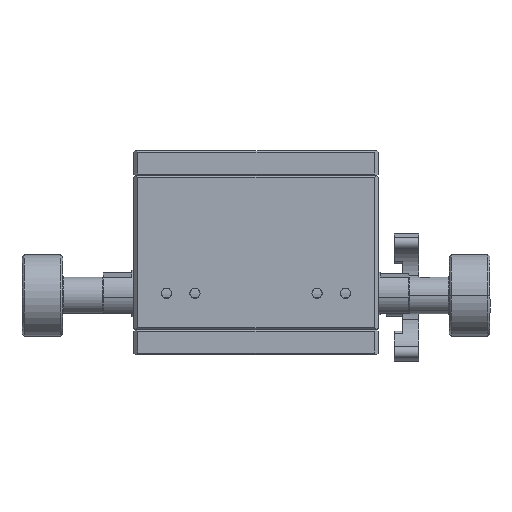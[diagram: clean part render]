
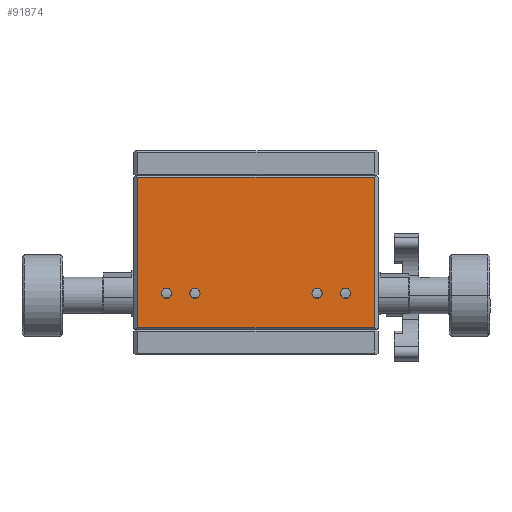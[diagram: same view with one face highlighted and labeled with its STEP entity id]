
A CAD part, top view. The second image highlights one B-rep face of the part: STEP entity #91874.
In plain terms, the highlighted planar face has unit normal (0, 0, 1).
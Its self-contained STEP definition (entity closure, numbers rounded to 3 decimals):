
#937 = EDGE_CURVE ( 'NONE', #77429, #63749, #36532, .T. ) ;
#1681 = VERTEX_POINT ( 'NONE', #30417 ) ;
#2882 = CARTESIAN_POINT ( 'NONE',  ( -13.565, 8.453, 17. ) ) ;
#4874 = DIRECTION ( 'NONE',  ( 0., 0., 1. ) ) ;
#4970 = CIRCLE ( 'NONE', #111830, 1.25 ) ;
#6033 = DIRECTION ( 'NONE',  ( 1., 0., 0. ) ) ;
#8598 = FACE_BOUND ( 'NONE', #33725, .T. ) ;
#8670 = CARTESIAN_POINT ( 'NONE',  ( -71.565, 45.453, 17. ) ) ;
#9053 = ORIENTED_EDGE ( 'NONE', *, *, #937, .F. ) ;
#9964 = PLANE ( 'NONE',  #53649 ) ;
#12086 = CARTESIAN_POINT ( 'NONE',  ( -28.815, 16.953, 17. ) ) ;
#12116 = ORIENTED_EDGE ( 'NONE', *, *, #125115, .T. ) ;
#13654 = VERTEX_POINT ( 'NONE', #19298 ) ;
#14651 = CARTESIAN_POINT ( 'NONE',  ( -27.565, 16.953, 17. ) ) ;
#15583 = LINE ( 'NONE', #60162, #40826 ) ;
#15729 = EDGE_LOOP ( 'NONE', ( #97494, #32599 ) ) ;
#16059 = AXIS2_PLACEMENT_3D ( 'NONE', #16727, #84126, #116195 ) ;
#16727 = CARTESIAN_POINT ( 'NONE',  ( -64.565, 16.953, 17. ) ) ;
#16805 = EDGE_CURVE ( 'NONE', #39588, #55641, #106297, .T. ) ;
#16858 = DIRECTION ( 'NONE',  ( 0., -1., 0. ) ) ;
#18121 = ORIENTED_EDGE ( 'NONE', *, *, #98922, .F. ) ;
#18636 = CIRCLE ( 'NONE', #127679, 1.25 ) ;
#18782 = EDGE_CURVE ( 'NONE', #55641, #39588, #115266, .T. ) ;
#19298 = CARTESIAN_POINT ( 'NONE',  ( -65.815, 16.953, 17. ) ) ;
#21102 = CARTESIAN_POINT ( 'NONE',  ( -63.315, 16.953, 17. ) ) ;
#22475 = DIRECTION ( 'NONE',  ( 1., 0., 0. ) ) ;
#25106 = DIRECTION ( 'NONE',  ( 1., 0., 0. ) ) ;
#25377 = AXIS2_PLACEMENT_3D ( 'NONE', #79226, #37414, #6033 ) ;
#26089 = DIRECTION ( 'NONE',  ( 0., 0., 1. ) ) ;
#26263 = AXIS2_PLACEMENT_3D ( 'NONE', #101483, #82617, #59637 ) ;
#30417 = CARTESIAN_POINT ( 'NONE',  ( -13.565, 45.453, 17. ) ) ;
#30544 = EDGE_CURVE ( 'NONE', #57428, #13654, #110029, .T. ) ;
#32578 = EDGE_CURVE ( 'NONE', #116711, #55198, #60059, .T. ) ;
#32599 = ORIENTED_EDGE ( 'NONE', *, *, #16805, .F. ) ;
#32640 = VECTOR ( 'NONE', #77225, 1000. ) ;
#32643 = CARTESIAN_POINT ( 'NONE',  ( -57.565, 16.953, 17. ) ) ;
#32928 = DIRECTION ( 'NONE',  ( 0., 0., 1. ) ) ;
#33725 = EDGE_LOOP ( 'NONE', ( #9053, #121659 ) ) ;
#36532 = CIRCLE ( 'NONE', #25377, 1.25 ) ;
#36937 = VERTEX_POINT ( 'NONE', #112865 ) ;
#37414 = DIRECTION ( 'NONE',  ( 0., 0., 1. ) ) ;
#39289 = CARTESIAN_POINT ( 'NONE',  ( -72.565, 45.953, 17. ) ) ;
#39588 = VERTEX_POINT ( 'NONE', #12086 ) ;
#40661 = EDGE_CURVE ( 'NONE', #55198, #101297, #46546, .T. ) ;
#40669 = DIRECTION ( 'NONE',  ( -1., 0., 0. ) ) ;
#40826 = VECTOR ( 'NONE', #133355, 1000. ) ;
#43114 = DIRECTION ( 'NONE',  ( 1., 0., 0. ) ) ;
#44602 = VECTOR ( 'NONE', #108701, 1000. ) ;
#44620 = CARTESIAN_POINT ( 'NONE',  ( -13.565, 45.953, 17. ) ) ;
#46198 = AXIS2_PLACEMENT_3D ( 'NONE', #14651, #4874, #25106 ) ;
#46546 = LINE ( 'NONE', #128867, #32640 ) ;
#51119 = FACE_BOUND ( 'NONE', #15729, .T. ) ;
#52276 = CARTESIAN_POINT ( 'NONE',  ( -71.565, 8.453, 17. ) ) ;
#53649 = AXIS2_PLACEMENT_3D ( 'NONE', #39289, #94319, #40669 ) ;
#55198 = VERTEX_POINT ( 'NONE', #52276 ) ;
#55641 = VERTEX_POINT ( 'NONE', #87074 ) ;
#57099 = EDGE_LOOP ( 'NONE', ( #12116, #120637, #67303, #96795 ) ) ;
#57428 = VERTEX_POINT ( 'NONE', #21102 ) ;
#59637 = DIRECTION ( 'NONE',  ( 1., 0., 0. ) ) ;
#60059 = LINE ( 'NONE', #103287, #114520 ) ;
#60162 = CARTESIAN_POINT ( 'NONE',  ( -72.565, 45.453, 17. ) ) ;
#62090 = ORIENTED_EDGE ( 'NONE', *, *, #71358, .F. ) ;
#63749 = VERTEX_POINT ( 'NONE', #94835 ) ;
#65340 = CARTESIAN_POINT ( 'NONE',  ( -58.815, 16.953, 17. ) ) ;
#67303 = ORIENTED_EDGE ( 'NONE', *, *, #32578, .T. ) ;
#71358 = EDGE_CURVE ( 'NONE', #13654, #57428, #100654, .T. ) ;
#71685 = EDGE_CURVE ( 'NONE', #63749, #77429, #18636, .T. ) ;
#75145 = DIRECTION ( 'NONE',  ( 0., 0., 1. ) ) ;
#75428 = CARTESIAN_POINT ( 'NONE',  ( -57.565, 16.953, 17. ) ) ;
#77225 = DIRECTION ( 'NONE',  ( 1., 0., 0. ) ) ;
#77429 = VERTEX_POINT ( 'NONE', #128881 ) ;
#79226 = CARTESIAN_POINT ( 'NONE',  ( -20.565, 16.953, 17. ) ) ;
#82617 = DIRECTION ( 'NONE',  ( 0., 0., 1. ) ) ;
#84126 = DIRECTION ( 'NONE',  ( 0., 0., 1. ) ) ;
#87071 = DIRECTION ( 'NONE',  ( 0., 0., 1. ) ) ;
#87074 = CARTESIAN_POINT ( 'NONE',  ( -26.315, 16.953, 17. ) ) ;
#87487 = DIRECTION ( 'NONE',  ( 1., 0., 0. ) ) ;
#91874 = ADVANCED_FACE ( 'NONE', ( #8598, #51119, #136139, #92248, #134768 ), #9964, .F. ) ;
#92248 = FACE_BOUND ( 'NONE', #118249, .T. ) ;
#93565 = VERTEX_POINT ( 'NONE', #65340 ) ;
#94319 = DIRECTION ( 'NONE',  ( 0., 0., -1. ) ) ;
#94438 = AXIS2_PLACEMENT_3D ( 'NONE', #119549, #26089, #87487 ) ;
#94835 = CARTESIAN_POINT ( 'NONE',  ( -21.815, 16.953, 17. ) ) ;
#96795 = ORIENTED_EDGE ( 'NONE', *, *, #40661, .T. ) ;
#97494 = ORIENTED_EDGE ( 'NONE', *, *, #18782, .F. ) ;
#98922 = EDGE_CURVE ( 'NONE', #36937, #93565, #4970, .T. ) ;
#100654 = CIRCLE ( 'NONE', #16059, 1.25 ) ;
#100777 = ORIENTED_EDGE ( 'NONE', *, *, #107980, .F. ) ;
#100993 = CIRCLE ( 'NONE', #114333, 1.25 ) ;
#101297 = VERTEX_POINT ( 'NONE', #2882 ) ;
#101483 = CARTESIAN_POINT ( 'NONE',  ( -27.565, 16.953, 17. ) ) ;
#103287 = CARTESIAN_POINT ( 'NONE',  ( -71.565, 7.953, 17. ) ) ;
#105926 = CARTESIAN_POINT ( 'NONE',  ( -20.565, 16.953, 17. ) ) ;
#106250 = EDGE_CURVE ( 'NONE', #1681, #116711, #15583, .T. ) ;
#106297 = CIRCLE ( 'NONE', #46198, 1.25 ) ;
#107980 = EDGE_CURVE ( 'NONE', #93565, #36937, #100993, .T. ) ;
#108701 = DIRECTION ( 'NONE',  ( 0., 1., 0. ) ) ;
#108765 = ORIENTED_EDGE ( 'NONE', *, *, #30544, .F. ) ;
#110029 = CIRCLE ( 'NONE', #94438, 1.25 ) ;
#111830 = AXIS2_PLACEMENT_3D ( 'NONE', #32643, #75145, #43114 ) ;
#112865 = CARTESIAN_POINT ( 'NONE',  ( -56.315, 16.953, 17. ) ) ;
#114333 = AXIS2_PLACEMENT_3D ( 'NONE', #75428, #32928, #22475 ) ;
#114520 = VECTOR ( 'NONE', #16858, 1000. ) ;
#115266 = CIRCLE ( 'NONE', #26263, 1.25 ) ;
#116195 = DIRECTION ( 'NONE',  ( 1., 0., 0. ) ) ;
#116711 = VERTEX_POINT ( 'NONE', #8670 ) ;
#118249 = EDGE_LOOP ( 'NONE', ( #108765, #62090 ) ) ;
#119549 = CARTESIAN_POINT ( 'NONE',  ( -64.565, 16.953, 17. ) ) ;
#119844 = LINE ( 'NONE', #44620, #44602 ) ;
#120637 = ORIENTED_EDGE ( 'NONE', *, *, #106250, .T. ) ;
#121659 = ORIENTED_EDGE ( 'NONE', *, *, #71685, .F. ) ;
#125115 = EDGE_CURVE ( 'NONE', #101297, #1681, #119844, .T. ) ;
#127679 = AXIS2_PLACEMENT_3D ( 'NONE', #105926, #87071, #137970 ) ;
#128867 = CARTESIAN_POINT ( 'NONE',  ( -13.565, 8.453, 17. ) ) ;
#128881 = CARTESIAN_POINT ( 'NONE',  ( -19.315, 16.953, 17. ) ) ;
#133355 = DIRECTION ( 'NONE',  ( -1., 0., 0. ) ) ;
#134768 = FACE_OUTER_BOUND ( 'NONE', #57099, .T. ) ;
#135223 = EDGE_LOOP ( 'NONE', ( #18121, #100777 ) ) ;
#136139 = FACE_BOUND ( 'NONE', #135223, .T. ) ;
#137970 = DIRECTION ( 'NONE',  ( 1., 0., 0. ) ) ;
